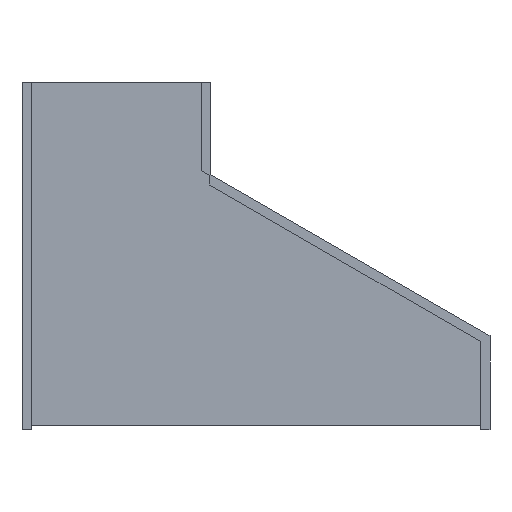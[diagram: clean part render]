
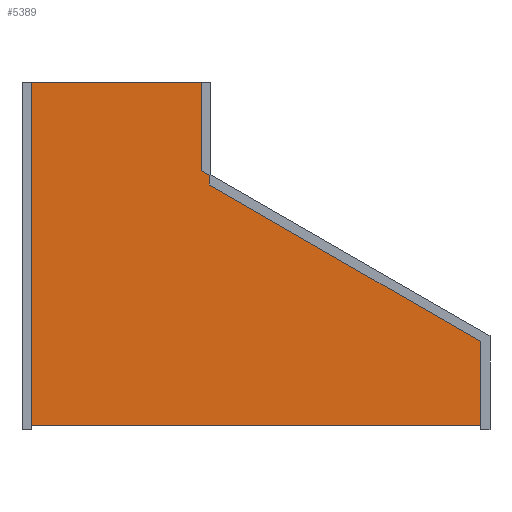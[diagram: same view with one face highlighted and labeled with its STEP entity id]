
A CAD part, front view. The second image highlights one B-rep face of the part: STEP entity #5389.
In plain terms, the highlighted planar face has unit normal (0, -1, 0) as drawn and (0, 1, 0) by its records, which use the part's own axes.
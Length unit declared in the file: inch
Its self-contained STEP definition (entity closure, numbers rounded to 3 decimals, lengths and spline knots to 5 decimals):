
#5224=DIRECTION('',(1.,0.,0.));
#5225=VECTOR('',#5224,11.875);
#5226=CARTESIAN_POINT('',(-5.9375,0.04,0.));
#5227=LINE('',#5226,#5225);
#5228=DIRECTION('',(0.,0.,1.));
#5229=VECTOR('',#5228,5.9375);
#5230=CARTESIAN_POINT('',(-5.9375,0.04,-5.9375));
#5231=LINE('',#5230,#5229);
#5232=DIRECTION('',(0.866,0.,0.5));
#5233=VECTOR('',#5232,20.78461);
#5234=CARTESIAN_POINT('',(-23.9375,0.04,-16.3298));
#5235=LINE('',#5234,#5233);
#5236=DIRECTION('',(0.,0.,1.));
#5237=VECTOR('',#5236,5.8125);
#5238=CARTESIAN_POINT('',(-23.9375,0.04,-22.1423));
#5239=LINE('',#5238,#5237);
#5240=DIRECTION('',(-1.,0.,0.));
#5241=VECTOR('',#5240,29.875);
#5242=CARTESIAN_POINT('',(5.9375,0.04,-22.1423));
#5243=LINE('',#5242,#5241);
#5244=DIRECTION('',(0.,0.,-1.));
#5245=VECTOR('',#5244,22.1423);
#5246=CARTESIAN_POINT('',(5.9375,0.04,0.));
#5247=LINE('',#5246,#5245);
#5254=CARTESIAN_POINT('',(-23.9375,0.04,-16.3298));
#5255=CARTESIAN_POINT('',(-5.9375,0.04,-5.9375));
#5256=VERTEX_POINT('',#5254);
#5257=VERTEX_POINT('',#5255);
#5258=CARTESIAN_POINT('',(-5.9375,0.04,0.));
#5259=VERTEX_POINT('',#5258);
#5262=CARTESIAN_POINT('',(-23.9375,0.04,-22.1423));
#5263=VERTEX_POINT('',#5262);
#5268=CARTESIAN_POINT('',(5.9375,0.04,0.));
#5269=VERTEX_POINT('',#5268);
#5270=CARTESIAN_POINT('',(5.9375,0.04,-22.1423));
#5271=VERTEX_POINT('',#5270);
#5376=CARTESIAN_POINT('',(0.,0.04,0.));
#5377=DIRECTION('',(0.,1.,0.));
#5378=DIRECTION('',(1.,0.,0.));
#5379=AXIS2_PLACEMENT_3D('',#5376,#5377,#5378);
#5380=PLANE('',#5379);
#5381=ORIENTED_EDGE('',*,*,#5300,.F.);
#5382=ORIENTED_EDGE('',*,*,#5315,.F.);
#5383=ORIENTED_EDGE('',*,*,#5329,.F.);
#5384=ORIENTED_EDGE('',*,*,#5343,.F.);
#5385=ORIENTED_EDGE('',*,*,#5357,.F.);
#5386=ORIENTED_EDGE('',*,*,#5370,.F.);
#5387=EDGE_LOOP('',(#5381,#5382,#5383,#5384,#5385,#5386));
#5388=FACE_OUTER_BOUND('',#5387,.F.);
#5389=ADVANCED_FACE('',(#5388),#5380,.T.);
#5300=EDGE_CURVE('',#5259,#5269,#5227,.T.);
#5315=EDGE_CURVE('',#5257,#5259,#5231,.T.);
#5329=EDGE_CURVE('',#5256,#5257,#5235,.T.);
#5343=EDGE_CURVE('',#5263,#5256,#5239,.T.);
#5357=EDGE_CURVE('',#5271,#5263,#5243,.T.);
#5370=EDGE_CURVE('',#5269,#5271,#5247,.T.);
